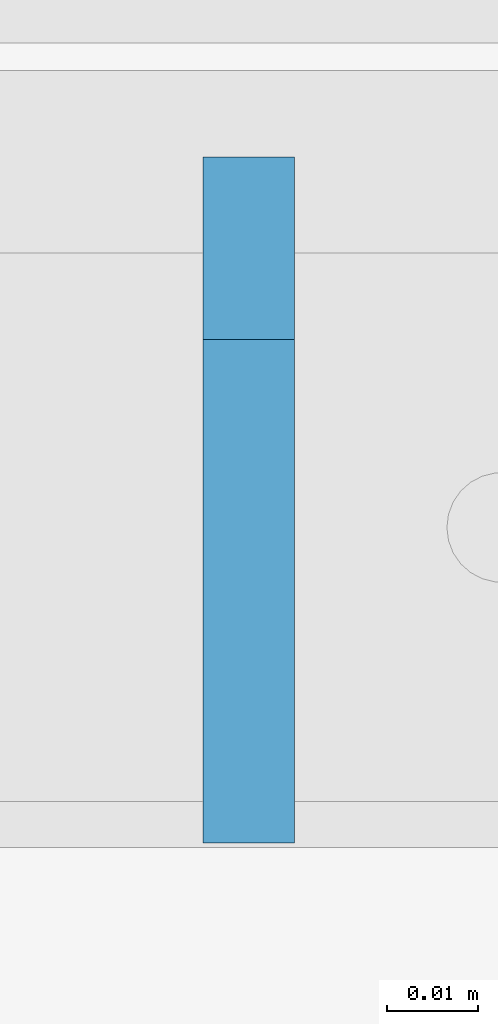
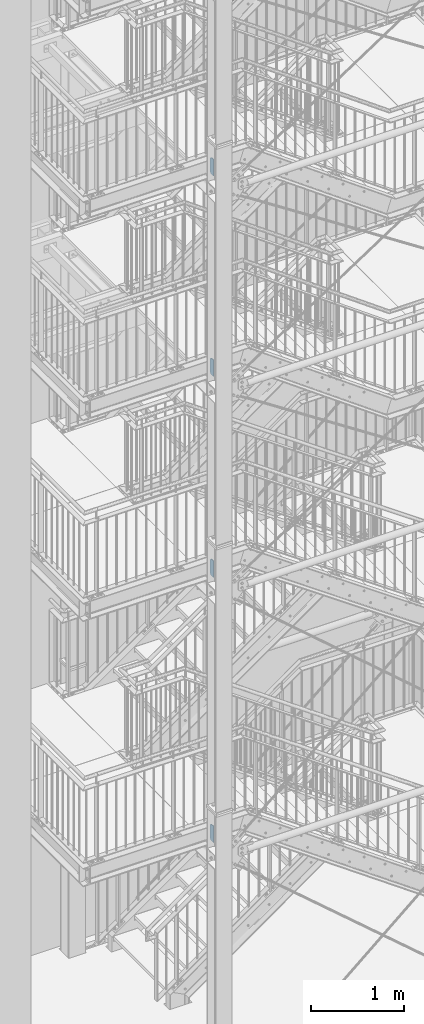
# One storey, part 156 of 831: 4 plates, 8 openings.
"""IFC2X3 building model written with IfcOpenShell, lengths in millimetres."""

from ifc_helpers import new_model, entity, si_unit, converted_unit, frame, origin, origin_with_axes, place, context, project, spatial, polyline, outline, extrude, material, layer, layer_set, element, save


model = new_model("IFC2X3")

# Units and contexts
model_context = context("Model", 3, precision=1e-09, world=origin_with_axes())
ifc_project = project(units=[si_unit("LENGTHUNIT", "METRE", prefix="MILLI"), si_unit("AREAUNIT", "SQUARE_METRE"), si_unit("VOLUMEUNIT", "CUBIC_METRE"), converted_unit("PLANEANGLEUNIT", "DEGREE", entity("IfcPlaneAngleMeasure", 0.01745329), si_unit("PLANEANGLEUNIT", "RADIAN"), dimensions=[0, 0, 0, 0, 0, 0, 0])], contexts=[model_context])

# Site, building, storey
site_placement = place(None, origin_with_axes())
site = spatial("IfcSite", under=ifc_project, at=site_placement, Name="Site", CompositionType="ELEMENT")
building_placement = place(site_placement, origin_with_axes())
building = spatial("IfcBuilding", under=site, at=building_placement, Name="Struktur 1", CompositionType="ELEMENT")
storey_placement = place(building_placement, origin_with_axes())
storey = spatial("IfcBuildingStorey", under=building, at=storey_placement, Name="Default Storey", CompositionType="ELEMENT", Elevation=0.0)

# Plate, openings
ifc_material = material(Name="S235JR")
ifc_layer = layer(ifc_material, 10.0)
ifc_layer_set = layer_set([ifc_layer], Name="S235JR")
plate_1_placement = place(None, frame((4851.713402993, 4567.236971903, 3829.855161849), z_axis=(1.0, 0.0, 0.0), x_axis=(0.0, -0.996815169, 0.079746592)))
plate_1 = element("IfcPlate", 1, at=plate_1_placement, inside=storey, material=ifc_layer_set, Name="Stiffener#1", ObjectType="Stiffener#1", context=model_context, shape_type="SweptSolid", body=[
    extrude(outline(polyline([(0.0, 0.0), (75.239625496, 0.0), (57.877952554, 217.017159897), (-16.404697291, 205.05517107), (0.0, 0.0)])), origin_with_axes(), (0.0, 0.0, 1.0), 10.0),
])
opening_1_placement = place(plate_1_placement, frame((0.0, 0.0, -0.01), z_axis=(0.0, 0.0, 1.0), x_axis=(1.0, 0.0, 0.0)))
element("IfcOpeningElement", 2, at=opening_1_placement, cuts=plate_1, ObjectType="Opening", context=model_context, shape_type="SweptSolid", body=[
    extrude(outline(polyline([(-16.404697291, 205.05517107), (-14.809765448, 185.118867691), (3.34092195, 208.23487558), (-16.404697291, 205.05517107)])), origin(), (0.0, 0.0, 1.0), 10.02),
])
opening_2_placement = place(plate_1_placement, frame((0.0, 0.0, -0.01), z_axis=(0.0, 0.0, 1.0), x_axis=(1.0, 0.0, 0.0)))
element("IfcOpeningElement", 3, at=opening_2_placement, cuts=plate_1, ObjectType="Opening", context=model_context, shape_type="SweptSolid", body=[
    extrude(outline(polyline([(0.0, 0.0), (20.0, 0.0), (-1.594931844, 19.936303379), (0.0, 0.0)])), origin(), (0.0, 0.0, 1.0), 10.02),
])

plate_2_placement = place(None, frame((4851.713402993, 4567.236971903, 7302.855161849), z_axis=(1.0, 0.0, 0.0), x_axis=(0.0, -0.996815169, 0.079746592)))
plate_2 = element("IfcPlate", 4, at=plate_2_placement, inside=storey, material=ifc_layer_set, Name="Stiffener#1", ObjectType="Stiffener#1", context=model_context, shape_type="SweptSolid", body=[
    extrude(outline(polyline([(0.0, 0.0), (75.239625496, 0.0), (57.877952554, 217.017159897), (-16.404697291, 205.05517107), (0.0, 0.0)])), origin_with_axes(), (0.0, 0.0, 1.0), 10.0),
])
opening_3_placement = place(plate_2_placement, frame((0.0, 0.0, -0.01), z_axis=(0.0, 0.0, 1.0), x_axis=(1.0, 0.0, 0.0)))
element("IfcOpeningElement", 5, at=opening_3_placement, cuts=plate_2, ObjectType="Opening", context=model_context, shape_type="SweptSolid", body=[
    extrude(outline(polyline([(-16.404697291, 205.05517107), (-14.809765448, 185.118867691), (3.34092195, 208.23487558), (-16.404697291, 205.05517107)])), origin(), (0.0, 0.0, 1.0), 10.02),
])
opening_4_placement = place(plate_2_placement, frame((0.0, 0.0, -0.01), z_axis=(0.0, 0.0, 1.0), x_axis=(1.0, 0.0, 0.0)))
element("IfcOpeningElement", 6, at=opening_4_placement, cuts=plate_2, ObjectType="Opening", context=model_context, shape_type="SweptSolid", body=[
    extrude(outline(polyline([(0.0, 0.0), (20.0, 0.0), (-1.594931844, 19.936303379), (0.0, 0.0)])), origin(), (0.0, 0.0, 1.0), 10.02),
])

plate_3_placement = place(None, frame((4851.713402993, 4567.236971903, 9934.855161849), z_axis=(1.0, 0.0, 0.0), x_axis=(0.0, -0.996815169, 0.079746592)))
plate_3 = element("IfcPlate", 7, at=plate_3_placement, inside=storey, material=ifc_layer_set, Name="Stiffener#1", ObjectType="Stiffener#1", context=model_context, shape_type="SweptSolid", body=[
    extrude(outline(polyline([(0.0, 0.0), (75.239625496, 0.0), (57.877952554, 217.017159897), (-16.404697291, 205.05517107), (0.0, 0.0)])), origin_with_axes(), (0.0, 0.0, 1.0), 10.0),
])
opening_5_placement = place(plate_3_placement, frame((0.0, 0.0, -0.01), z_axis=(0.0, 0.0, 1.0), x_axis=(1.0, 0.0, 0.0)))
element("IfcOpeningElement", 8, at=opening_5_placement, cuts=plate_3, ObjectType="Opening", context=model_context, shape_type="SweptSolid", body=[
    extrude(outline(polyline([(-16.404697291, 205.05517107), (-14.809765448, 185.118867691), (3.34092195, 208.23487558), (-16.404697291, 205.05517107)])), origin(), (0.0, 0.0, 1.0), 10.02),
])
opening_6_placement = place(plate_3_placement, frame((0.0, 0.0, -0.01), z_axis=(0.0, 0.0, 1.0), x_axis=(1.0, 0.0, 0.0)))
element("IfcOpeningElement", 9, at=opening_6_placement, cuts=plate_3, ObjectType="Opening", context=model_context, shape_type="SweptSolid", body=[
    extrude(outline(polyline([(0.0, 0.0), (20.0, 0.0), (-1.594931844, 19.936303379), (0.0, 0.0)])), origin(), (0.0, 0.0, 1.0), 10.02),
])

plate_4_placement = place(None, frame((4851.713402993, 4567.236971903, 12561.855161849), z_axis=(1.0, 0.0, 0.0), x_axis=(0.0, -0.996815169, 0.079746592)))
plate_4 = element("IfcPlate", 10, at=plate_4_placement, inside=storey, material=ifc_layer_set, Name="Stiffener#1", ObjectType="Stiffener#1", context=model_context, shape_type="SweptSolid", body=[
    extrude(outline(polyline([(0.0, 0.0), (75.239625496, 0.0), (57.877952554, 217.017159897), (-16.404697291, 205.05517107), (0.0, 0.0)])), origin_with_axes(), (0.0, 0.0, 1.0), 10.0),
])
opening_7_placement = place(plate_4_placement, frame((0.0, 0.0, -0.01), z_axis=(0.0, 0.0, 1.0), x_axis=(1.0, 0.0, 0.0)))
element("IfcOpeningElement", 11, at=opening_7_placement, cuts=plate_4, ObjectType="Opening", context=model_context, shape_type="SweptSolid", body=[
    extrude(outline(polyline([(-16.404697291, 205.05517107), (-14.809765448, 185.118867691), (3.34092195, 208.23487558), (-16.404697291, 205.05517107)])), origin(), (0.0, 0.0, 1.0), 10.02),
])
opening_8_placement = place(plate_4_placement, frame((0.0, 0.0, -0.01), z_axis=(0.0, 0.0, 1.0), x_axis=(1.0, 0.0, 0.0)))
element("IfcOpeningElement", 12, at=opening_8_placement, cuts=plate_4, ObjectType="Opening", context=model_context, shape_type="SweptSolid", body=[
    extrude(outline(polyline([(0.0, 0.0), (20.0, 0.0), (-1.594931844, 19.936303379), (0.0, 0.0)])), origin(), (0.0, 0.0, 1.0), 10.02),
])

save(model, "model.ifc")
